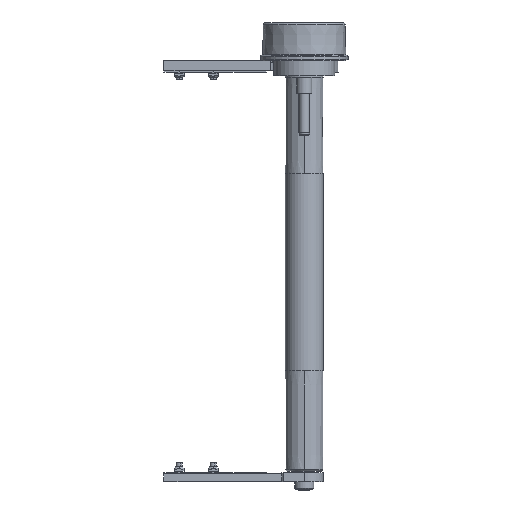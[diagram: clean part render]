
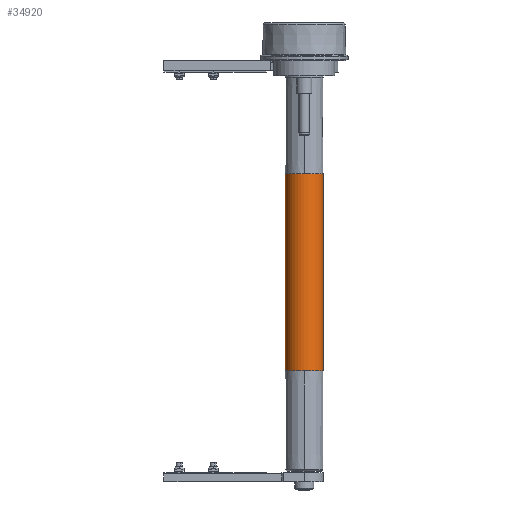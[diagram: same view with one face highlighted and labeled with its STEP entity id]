
A CAD part, front view. The second image highlights one B-rep face of the part: STEP entity #34920.
In plain terms, the highlighted cylindrical face has radius 25 mm (diameter 50 mm), a partial arc.
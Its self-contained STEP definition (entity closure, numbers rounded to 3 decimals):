
#239 = AXIS2_PLACEMENT_3D ( 'NONE', #1501, #5104, #37205 ) ;
#854 = CARTESIAN_POINT ( 'NONE',  ( 130., 0., 25. ) ) ;
#1501 = CARTESIAN_POINT ( 'NONE',  ( -130., 0., 0. ) ) ;
#2310 = VERTEX_POINT ( 'NONE', #32735 ) ;
#4251 = DIRECTION ( 'NONE',  ( 0., -1., 0. ) ) ;
#4577 = ORIENTED_EDGE ( 'NONE', *, *, #9637, .F. ) ;
#5104 = DIRECTION ( 'NONE',  ( -1., 0., 0. ) ) ;
#8094 = EDGE_CURVE ( 'NONE', #14496, #9948, #43281, .T. ) ;
#9637 = EDGE_CURVE ( 'NONE', #38482, #39242, #39788, .T. ) ;
#9948 = VERTEX_POINT ( 'NONE', #10089 ) ;
#10089 = CARTESIAN_POINT ( 'NONE',  ( 130., -25., 0. ) ) ;
#10396 = FACE_OUTER_BOUND ( 'NONE', #41114, .T. ) ;
#11392 = DIRECTION ( 'NONE',  ( -1., 0., 0. ) ) ;
#14327 = DIRECTION ( 'NONE',  ( -1., 0., 0. ) ) ;
#14496 = VERTEX_POINT ( 'NONE', #38067 ) ;
#14995 = CARTESIAN_POINT ( 'NONE',  ( 260., 0., 25. ) ) ;
#16267 = DIRECTION ( 'NONE',  ( -1., 0., 0. ) ) ;
#16305 = VECTOR ( 'NONE', #14327, 1000. ) ;
#17943 = CARTESIAN_POINT ( 'NONE',  ( 260., 0., -25. ) ) ;
#19086 = CARTESIAN_POINT ( 'NONE',  ( 130., 0., 0. ) ) ;
#19922 = DIRECTION ( 'NONE',  ( 0., 0., 1. ) ) ;
#20345 = EDGE_CURVE ( 'NONE', #28590, #2310, #46178, .T. ) ;
#20521 = CARTESIAN_POINT ( 'NONE',  ( -130., 0., 0. ) ) ;
#20678 = DIRECTION ( 'NONE',  ( 0., -1., 0. ) ) ;
#21052 = EDGE_CURVE ( 'NONE', #14496, #38482, #36546, .T. ) ;
#21293 = AXIS2_PLACEMENT_3D ( 'NONE', #19086, #40294, #4251 ) ;
#21360 = AXIS2_PLACEMENT_3D ( 'NONE', #20521, #27738, #20678 ) ;
#22186 = CIRCLE ( 'NONE', #239, 25. ) ;
#23016 = ORIENTED_EDGE ( 'NONE', *, *, #43792, .T. ) ;
#23665 = DIRECTION ( 'NONE',  ( 0., -1., 0. ) ) ;
#23816 = ORIENTED_EDGE ( 'NONE', *, *, #40492, .F. ) ;
#24422 = VECTOR ( 'NONE', #11392, 1000. ) ;
#27738 = DIRECTION ( 'NONE',  ( -1., 0., 0. ) ) ;
#28042 = CIRCLE ( 'NONE', #44776, 25. ) ;
#28272 = ORIENTED_EDGE ( 'NONE', *, *, #20345, .T. ) ;
#28590 = VERTEX_POINT ( 'NONE', #854 ) ;
#30554 = CARTESIAN_POINT ( 'NONE',  ( -130., 0., -25. ) ) ;
#30786 = DIRECTION ( 'NONE',  ( -1., 0., 0. ) ) ;
#30902 = CARTESIAN_POINT ( 'NONE',  ( 130., 0., 0. ) ) ;
#30926 = ORIENTED_EDGE ( 'NONE', *, *, #8094, .T. ) ;
#32735 = CARTESIAN_POINT ( 'NONE',  ( -130., 0., 25. ) ) ;
#34062 = CARTESIAN_POINT ( 'NONE',  ( 260., 0., 0. ) ) ;
#34693 = ORIENTED_EDGE ( 'NONE', *, *, #21052, .F. ) ;
#34839 = CARTESIAN_POINT ( 'NONE',  ( -130., -25., 0. ) ) ;
#34920 = ADVANCED_FACE ( 'NONE', ( #10396 ), #37907, .T. ) ;
#36546 = LINE ( 'NONE', #17943, #16305 ) ;
#37205 = DIRECTION ( 'NONE',  ( 0., -1., 0. ) ) ;
#37907 = CYLINDRICAL_SURFACE ( 'NONE', #38224, 25. ) ;
#38067 = CARTESIAN_POINT ( 'NONE',  ( 130., 0., -25. ) ) ;
#38224 = AXIS2_PLACEMENT_3D ( 'NONE', #34062, #30786, #19922 ) ;
#38482 = VERTEX_POINT ( 'NONE', #30554 ) ;
#39242 = VERTEX_POINT ( 'NONE', #34839 ) ;
#39788 = CIRCLE ( 'NONE', #21360, 25. ) ;
#40294 = DIRECTION ( 'NONE',  ( -1., 0., 0. ) ) ;
#40492 = EDGE_CURVE ( 'NONE', #39242, #2310, #22186, .T. ) ;
#41114 = EDGE_LOOP ( 'NONE', ( #34693, #30926, #23016, #28272, #23816, #4577 ) ) ;
#43281 = CIRCLE ( 'NONE', #21293, 25. ) ;
#43792 = EDGE_CURVE ( 'NONE', #9948, #28590, #28042, .T. ) ;
#44776 = AXIS2_PLACEMENT_3D ( 'NONE', #30902, #16267, #23665 ) ;
#46178 = LINE ( 'NONE', #14995, #24422 ) ;
